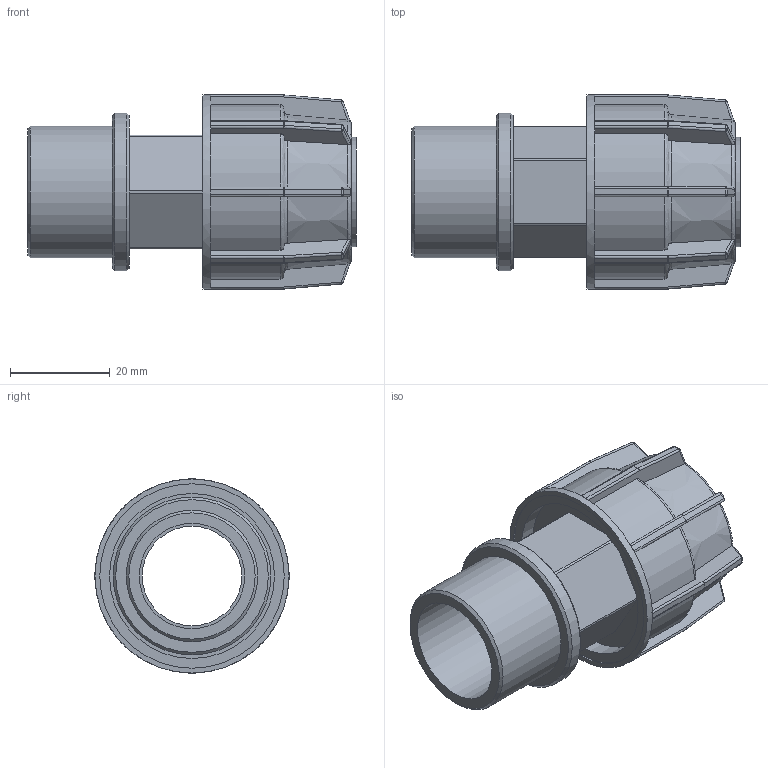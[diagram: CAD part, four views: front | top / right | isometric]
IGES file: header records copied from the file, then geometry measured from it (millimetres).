
Global section: file name: 040207020007.ipt; native system: Autodesk Inventor 2015; preprocessor: unknown; author: KIM; date: 20180409.130625; units: millimetre
Bounding box: 66 x 39 x 39 mm (x, y, z)
Volume: 22036.5 mm3; surface area: 14497.8 mm2
Topology: 1 solids, 1 shells, 283 faces, 672 edges, 393 vertices
Faces by surface type: plane 142, cylinder 76, sphere 32, revolution 22, cone 11
Full cylindrical faces by diameter (mm): 22 x1, 26.441 x1, 31.729 x1, 39 x1
